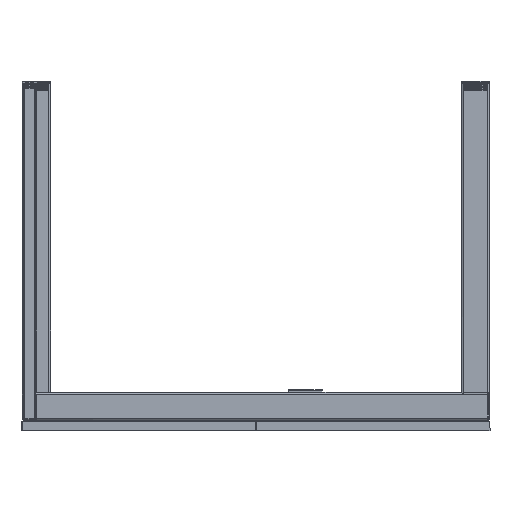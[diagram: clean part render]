
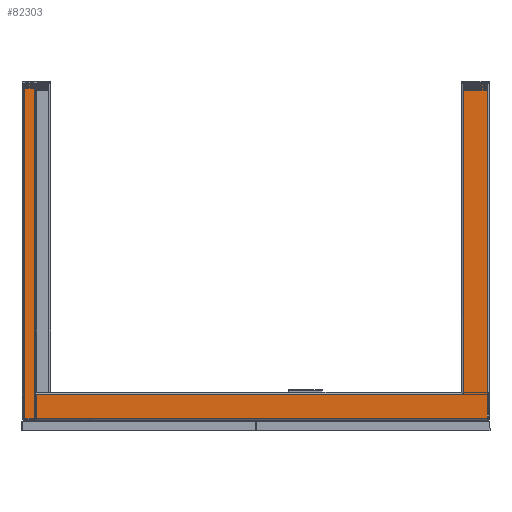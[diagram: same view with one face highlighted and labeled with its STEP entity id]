
A CAD part, front view. The second image highlights one B-rep face of the part: STEP entity #82303.
In plain terms, the highlighted planar face has unit normal (0, -1, 0) as drawn and (-1, 0, 0) by its records, which use the part's own axes.
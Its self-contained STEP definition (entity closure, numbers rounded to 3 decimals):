
#575 = EDGE_CURVE ( 'NONE', #35105, #26698, #21710, .T. ) ;
#1140 = DIRECTION ( 'NONE',  ( 0., 0., 1. ) ) ;
#2487 = VECTOR ( 'NONE', #12525, 1000. ) ;
#2930 = EDGE_CURVE ( 'NONE', #101039, #110110, #37603, .T. ) ;
#3658 = VERTEX_POINT ( 'NONE', #88304 ) ;
#8361 = VECTOR ( 'NONE', #25842, 1000. ) ;
#9895 = CARTESIAN_POINT ( 'NONE',  ( -20., -25., 466. ) ) ;
#10596 = VECTOR ( 'NONE', #91489, 1000. ) ;
#11993 = CARTESIAN_POINT ( 'NONE',  ( -20., -686., 471. ) ) ;
#12525 = DIRECTION ( 'NONE',  ( 0., 0., 1. ) ) ;
#13479 = CARTESIAN_POINT ( 'NONE',  ( -20., 25., -491. ) ) ;
#16677 = CARTESIAN_POINT ( 'NONE',  ( -20., -758.111, -441. ) ) ;
#16734 = LINE ( 'NONE', #62030, #8361 ) ;
#17458 = EDGE_CURVE ( 'NONE', #35105, #3658, #58482, .T. ) ;
#20689 = DIRECTION ( 'NONE',  ( 0., 0., -1. ) ) ;
#21318 = CARTESIAN_POINT ( 'NONE',  ( -20., -25., -491. ) ) ;
#21710 = LINE ( 'NONE', #103835, #66047 ) ;
#25842 = DIRECTION ( 'NONE',  ( 0., 1., 0. ) ) ;
#26698 = VERTEX_POINT ( 'NONE', #44031 ) ;
#27159 = EDGE_CURVE ( 'NONE', #3658, #101039, #16734, .T. ) ;
#27205 = CARTESIAN_POINT ( 'NONE',  ( -20., 25., 466. ) ) ;
#28202 = VECTOR ( 'NONE', #102169, 1000. ) ;
#28473 = LINE ( 'NONE', #65270, #28202 ) ;
#28553 = DIRECTION ( 'NONE',  ( 0., 0., -1. ) ) ;
#29748 = CARTESIAN_POINT ( 'NONE',  ( -20., 25., 466. ) ) ;
#30223 = ORIENTED_EDGE ( 'NONE', *, *, #50428, .T. ) ;
#30499 = VECTOR ( 'NONE', #1140, 1000. ) ;
#30743 = DIRECTION ( 'NONE',  ( 0., 1., 0. ) ) ;
#33916 = VERTEX_POINT ( 'NONE', #96986 ) ;
#35105 = VERTEX_POINT ( 'NONE', #11993 ) ;
#35398 = LINE ( 'NONE', #16677, #105966 ) ;
#37603 = LINE ( 'NONE', #29748, #86112 ) ;
#40670 = LINE ( 'NONE', #13479, #119478 ) ;
#41275 = EDGE_CURVE ( 'NONE', #33916, #45970, #35398, .T. ) ;
#41431 = VERTEX_POINT ( 'NONE', #21318 ) ;
#41869 = VERTEX_POINT ( 'NONE', #111779 ) ;
#44031 = CARTESIAN_POINT ( 'NONE',  ( -20., -25., 471. ) ) ;
#44827 = CARTESIAN_POINT ( 'NONE',  ( -20., -686., -491. ) ) ;
#45970 = VERTEX_POINT ( 'NONE', #57405 ) ;
#46106 = ORIENTED_EDGE ( 'NONE', *, *, #2930, .T. ) ;
#48301 = EDGE_CURVE ( 'NONE', #41869, #41431, #40670, .T. ) ;
#49639 = VERTEX_POINT ( 'NONE', #44827 ) ;
#50428 = EDGE_CURVE ( 'NONE', #110110, #41869, #110690, .T. ) ;
#53503 = DIRECTION ( 'NONE',  ( 0., 1., 0. ) ) ;
#54352 = PLANE ( 'NONE',  #81155 ) ;
#54357 = VECTOR ( 'NONE', #28553, 1000. ) ;
#56917 = CARTESIAN_POINT ( 'NONE',  ( -20., 25., 491. ) ) ;
#57405 = CARTESIAN_POINT ( 'NONE',  ( -20., -25., -441. ) ) ;
#58403 = LINE ( 'NONE', #66303, #2487 ) ;
#58482 = LINE ( 'NONE', #83936, #30499 ) ;
#59427 = ORIENTED_EDGE ( 'NONE', *, *, #41275, .T. ) ;
#62030 = CARTESIAN_POINT ( 'NONE',  ( -20., -686., 491. ) ) ;
#65209 = EDGE_CURVE ( 'NONE', #49639, #33916, #58403, .T. ) ;
#65270 = CARTESIAN_POINT ( 'NONE',  ( -20., -758.111, -491. ) ) ;
#66047 = VECTOR ( 'NONE', #30743, 1000. ) ;
#66303 = CARTESIAN_POINT ( 'NONE',  ( -20., -686., -441. ) ) ;
#67985 = ORIENTED_EDGE ( 'NONE', *, *, #113019, .F. ) ;
#70023 = ORIENTED_EDGE ( 'NONE', *, *, #17458, .T. ) ;
#73669 = CARTESIAN_POINT ( 'NONE',  ( -20., 25., 471. ) ) ;
#81155 = AXIS2_PLACEMENT_3D ( 'NONE', #27205, #81545, #91242 ) ;
#81545 = DIRECTION ( 'NONE',  ( 1., 0., 0. ) ) ;
#82303 = ADVANCED_FACE ( 'NONE', ( #93029 ), #54352, .F. ) ;
#83936 = CARTESIAN_POINT ( 'NONE',  ( -20., -686., 491. ) ) ;
#85813 = ORIENTED_EDGE ( 'NONE', *, *, #27159, .T. ) ;
#86112 = VECTOR ( 'NONE', #20689, 1000. ) ;
#87241 = ORIENTED_EDGE ( 'NONE', *, *, #65209, .T. ) ;
#88304 = CARTESIAN_POINT ( 'NONE',  ( -20., -686., 491. ) ) ;
#91242 = DIRECTION ( 'NONE',  ( 0., 1., 0. ) ) ;
#91489 = DIRECTION ( 'NONE',  ( 0., 0., -1. ) ) ;
#92605 = CARTESIAN_POINT ( 'NONE',  ( -20., 25., 466. ) ) ;
#92679 = LINE ( 'NONE', #9895, #10596 ) ;
#93029 = FACE_OUTER_BOUND ( 'NONE', #99854, .T. ) ;
#93818 = EDGE_CURVE ( 'NONE', #26698, #45970, #92679, .T. ) ;
#96986 = CARTESIAN_POINT ( 'NONE',  ( -20., -686., -441. ) ) ;
#99854 = EDGE_LOOP ( 'NONE', ( #85813, #46106, #30223, #100557, #67985, #87241, #59427, #116834, #102037, #70023 ) ) ;
#100557 = ORIENTED_EDGE ( 'NONE', *, *, #48301, .T. ) ;
#101039 = VERTEX_POINT ( 'NONE', #56917 ) ;
#102037 = ORIENTED_EDGE ( 'NONE', *, *, #575, .F. ) ;
#102169 = DIRECTION ( 'NONE',  ( 0., 1., 0. ) ) ;
#103835 = CARTESIAN_POINT ( 'NONE',  ( -20., -686., 471. ) ) ;
#104103 = DIRECTION ( 'NONE',  ( 0., -1., 0. ) ) ;
#105966 = VECTOR ( 'NONE', #53503, 1000. ) ;
#110110 = VERTEX_POINT ( 'NONE', #73669 ) ;
#110690 = LINE ( 'NONE', #92605, #54357 ) ;
#111779 = CARTESIAN_POINT ( 'NONE',  ( -20., 25., -491. ) ) ;
#113019 = EDGE_CURVE ( 'NONE', #49639, #41431, #28473, .T. ) ;
#116834 = ORIENTED_EDGE ( 'NONE', *, *, #93818, .F. ) ;
#119478 = VECTOR ( 'NONE', #104103, 1000. ) ;
